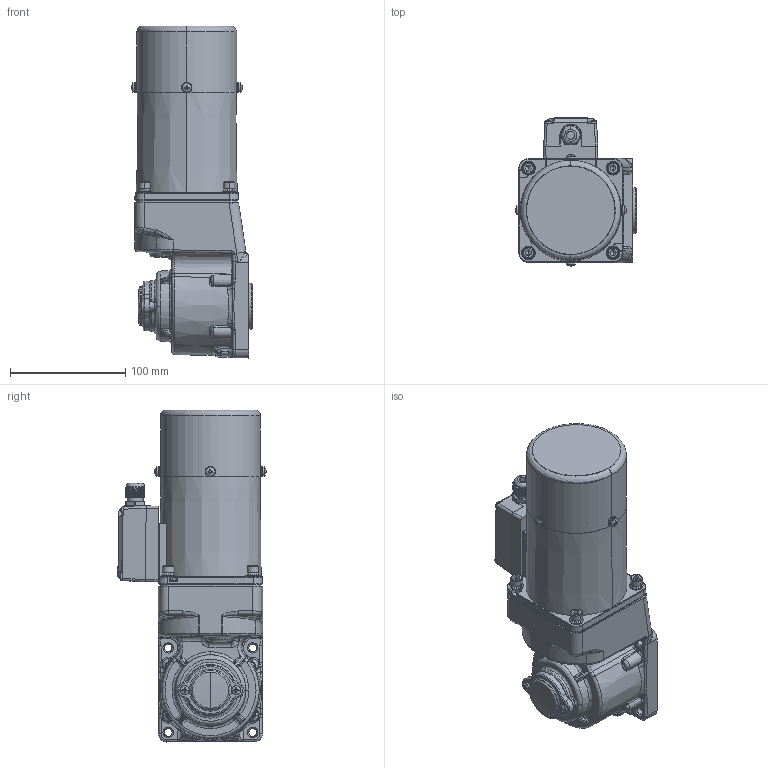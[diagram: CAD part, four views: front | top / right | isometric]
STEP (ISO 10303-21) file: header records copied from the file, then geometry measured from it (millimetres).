
FILE_DESCRIPTION (( 'STEP AP203' ), '1' );
FILE_NAME ('5RK40GU-CMT(5GU3RC-180RC)ÐÂ.STEP', '2023-08-17T06:55:12', ( 'Windows User' ), ( 'P R C' ), 'SwSTEP 2.0', 'SolidWorks 2019', '' );
FILE_SCHEMA (( 'CONFIG_CONTROL_DESIGN' ));
Length unit declared in the file: millimetre
Products named in the file (9): ZD-5GU50RC-505-003______1^5RK40GU-CMT(5GU3RC-180RC)陔(2)_5RK40GU-CMT(5GU3RC-180RC)陔; 90RT____________^5RK40GU-CMT(5GU3RC-180RC)陔(2)_5RK40GU-CMT(5GU3RC-180RC)陔; 5RK40GU-CMT(5GU3RC-180RC)^5RK40GU-CMT(5GU3RC-180RC)ÐÂ(2)_5RK40GU-CMT(5GU3RC-180RC)ÐÂ; cross recessed pan head screws gb_GB_CROSS_SCREWS_TYPE1 M4X6-6  H type-N^5RK40GU-CMT(5GU3RC-180RC)ÐÂ(2)_5RK40GU-CMT(5GU3RC-180RC)ÐÂ; 90__________^5RK40GU-CMT(5GU3RC-180RC)陔(2)_5RK40GU-CMT(5GU3RC-180RC)陔; 5RK40GU-CMT(5GU3RC-180RC)陔; 90__________-0^5RK40GU-CMT(5GU3RC-180RC)陔(2)_5RK40GU-CMT(5GU3RC-180RC)陔; hexagon socket head cap screws gb_GB_FASTENER_SCREWS_HSHCS M5X12-N^5RK40GU-CMT(5GU3RC-180RC)ÐÂ(2)_5RK40GU-CMT(5GU3RC-180RC)ÐÂ; 5RK40GU-CMT(5GU3RC-180RC)陔(2)^5RK40GU-CMT(5GU3RC-180RC)陔
Assembly tree (12 placements, depth 3):
  5RK40GU-CMT(5GU3RC-180RC)陔
    5RK40GU-CMT(5GU3RC-180RC)陔(2)^5RK40GU-CMT(5GU3RC-180RC)陔
      90__________^5RK40GU-CMT(5GU3RC-180RC)陔(2)_5RK40GU-CMT(5GU3RC-180RC)陔
      90RT____________^5RK40GU-CMT(5GU3RC-180RC)陔(2)_5RK40GU-CMT(5GU3RC-180RC)陔
      90__________-0^5RK40GU-CMT(5GU3RC-180RC)陔(2)_5RK40GU-CMT(5GU3RC-180RC)陔
      hexagon socket head cap screws gb_GB_FASTENER_SCREWS_HSHCS M5X12-N^5RK40GU-CMT(5GU3RC-180RC)ÐÂ(2)_5RK40GU-CMT(5GU3RC-180RC)ÐÂ  x4
      ZD-5GU50RC-505-003______1^5RK40GU-CMT(5GU3RC-180RC)陔(2)_5RK40GU-CMT(5GU3RC-180RC)陔
      cross recessed pan head screws gb_GB_CROSS_SCREWS_TYPE1 M4X6-6  H type-N^5RK40GU-CMT(5GU3RC-180RC)ÐÂ(2)_5RK40GU-CMT(5GU3RC-180RC)ÐÂ  x2
      5RK40GU-CMT(5GU3RC-180RC)^5RK40GU-CMT(5GU3RC-180RC)ÐÂ(2)_5RK40GU-CMT(5GU3RC-180RC)ÐÂ
Bounding box: 105.85 x 128.79 x 288.54 mm (x, y, z)
Volume: 1581491.9 mm3; surface area: 230151.7 mm2
Topology: 45 solids, 45 shells, 2773 faces, 6916 edges, 4150 vertices
Faces by surface type: plane 738, cylinder 700, cone 690, bspline 556, torus 83, sphere 6
Entity records: 113741 total; most frequent: CARTESIAN_POINT 54039, ORIENTED_EDGE 13064, DIRECTION 11335, EDGE_CURVE 6532, AXIS2_PLACEMENT_3D 4522, VERTEX_POINT 4007, EDGE_LOOP 2803, FACE_OUTER_BOUND 2673
